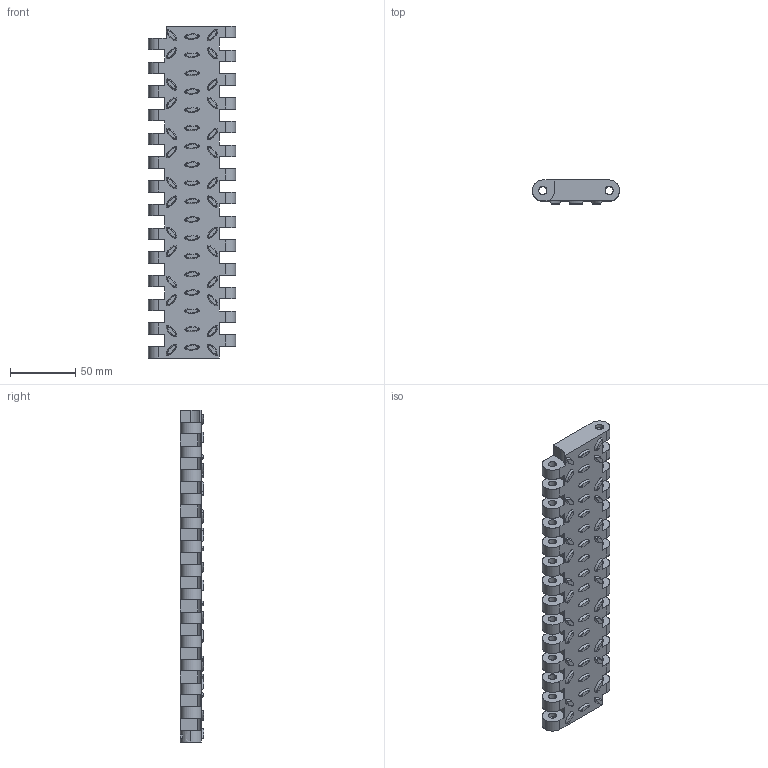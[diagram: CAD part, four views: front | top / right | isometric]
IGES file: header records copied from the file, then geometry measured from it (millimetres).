
Start section: SolidWorks IGES file using analytic representation for surfaces
Global section: file name: C:\Documents and Settings\URETIM3\Desktop\yeni katalog tolgay düzenli\D kataloðu\950-951 yýldýz serisi hasýr düz taþýyýcý bant\951 G02 K10.IGS; native system: SolidWorks 2006 by SolidWorks Corporation; preprocessor: SolidWorks 2006 by SolidWorks Corporation; author: URETIM3; date: 060912.142303; units: millimetre
Bounding box: 66.8 x 18 x 254.2 mm (x, y, z)
Surface area: 66207.5 mm2 (no closed solid volume)
Topology: 0 solids, 0 shells, 580 faces, 9064 edges, 9064 vertices
Faces by surface type: bspline 387, revolution 193
